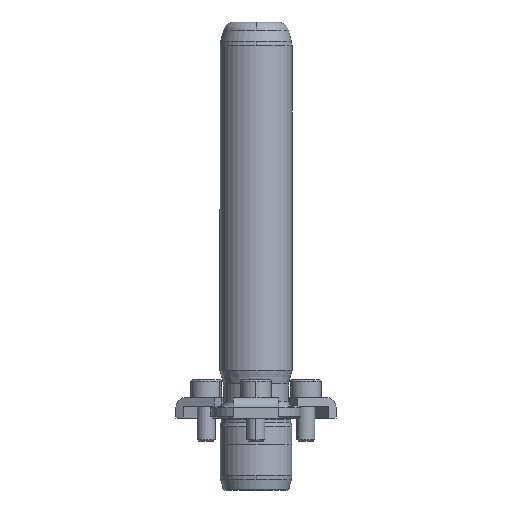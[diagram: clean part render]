
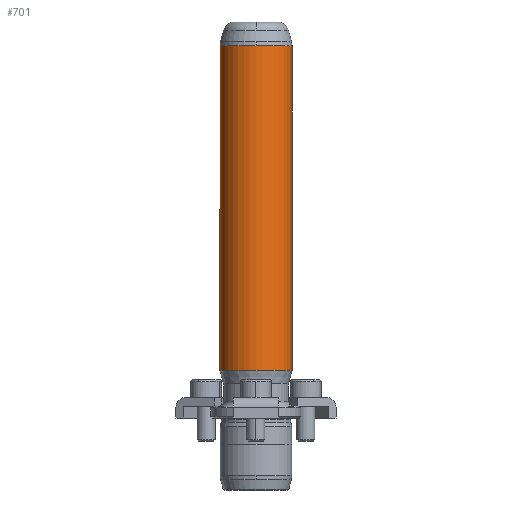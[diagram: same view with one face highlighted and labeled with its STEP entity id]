
A CAD part, front view. The second image highlights one B-rep face of the part: STEP entity #701.
In plain terms, the highlighted cylindrical face has radius 10 mm (diameter 20 mm), a partial arc.
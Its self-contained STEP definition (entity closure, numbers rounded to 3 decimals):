
#614=CARTESIAN_POINT('',(0.0,-10.,103.342));
#615=VERTEX_POINT('',#614);
#642=CARTESIAN_POINT('',(-10.0,0.,103.342));
#643=VERTEX_POINT('',#642);
#651=CARTESIAN_POINT('',(0.0,0.,103.342));
#652=DIRECTION('',(0.0,0.0,1.0));
#653=DIRECTION('',(1.0,0.0,0.0));
#654=AXIS2_PLACEMENT_3D('',#651,#652,#653);
#655=CIRCLE('',#654,10.);
#656=EDGE_CURVE('',#643,#615,#655,.T.);
#661=CARTESIAN_POINT('',(0.0,0.,58.321));
#662=DIRECTION('',(0.0,0.,1.0));
#663=DIRECTION('',(1.0,0.0,0.0));
#664=AXIS2_PLACEMENT_3D('',#661,#662,#663);
#665=CYLINDRICAL_SURFACE('',#664,10.0);
#666=CARTESIAN_POINT('',(10.,0.,103.342));
#667=VERTEX_POINT('',#666);
#668=CARTESIAN_POINT('',(10.0,0.,13.3));
#669=VERTEX_POINT('',#668);
#670=CARTESIAN_POINT('',(10.,0.,103.342));
#671=DIRECTION('',(0.0,0.0,-1.0));
#672=VECTOR('',#671,90.042);
#673=LINE('',#670,#672);
#674=EDGE_CURVE('',#667,#669,#673,.T.);
#675=ORIENTED_EDGE('',*,*,#674,.F.);
#676=CARTESIAN_POINT('',(0.0,0.,103.342));
#677=DIRECTION('',(0.0,0.0,1.0));
#678=DIRECTION('',(1.0,0.0,0.0));
#679=AXIS2_PLACEMENT_3D('',#676,#677,#678);
#680=CIRCLE('',#679,10.);
#681=EDGE_CURVE('',#615,#667,#680,.T.);
#682=ORIENTED_EDGE('',*,*,#681,.F.);
#683=ORIENTED_EDGE('',*,*,#656,.F.);
#684=CARTESIAN_POINT('',(-10.,0.,13.3));
#685=VERTEX_POINT('',#684);
#686=CARTESIAN_POINT('',(-10.0,0.,103.342));
#687=DIRECTION('',(0.0,0.0,-1.0));
#688=VECTOR('',#687,90.042);
#689=LINE('',#686,#688);
#690=EDGE_CURVE('',#643,#685,#689,.T.);
#691=ORIENTED_EDGE('',*,*,#690,.T.);
#692=CARTESIAN_POINT('',(0.0,0.,13.3));
#693=DIRECTION('',(0.0,0.0,1.0));
#694=DIRECTION('',(1.0,0.0,0.0));
#695=AXIS2_PLACEMENT_3D('',#692,#693,#694);
#696=CIRCLE('',#695,10.0);
#697=EDGE_CURVE('',#685,#669,#696,.T.);
#698=ORIENTED_EDGE('',*,*,#697,.T.);
#699=EDGE_LOOP('',(#675,#682,#683,#691,#698));
#700=FACE_OUTER_BOUND('',#699,.T.);
#701=ADVANCED_FACE('',(#700),#665,.T.);
